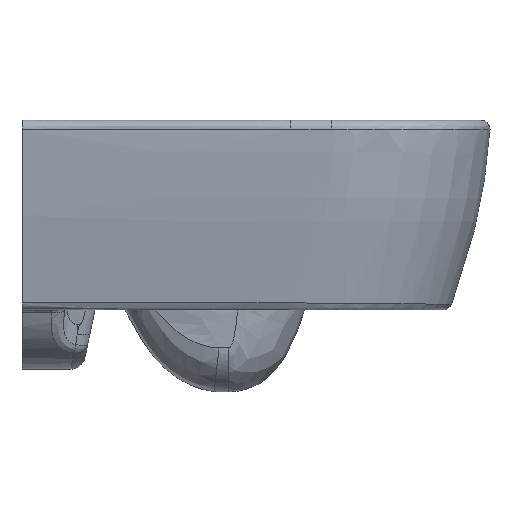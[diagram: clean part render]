
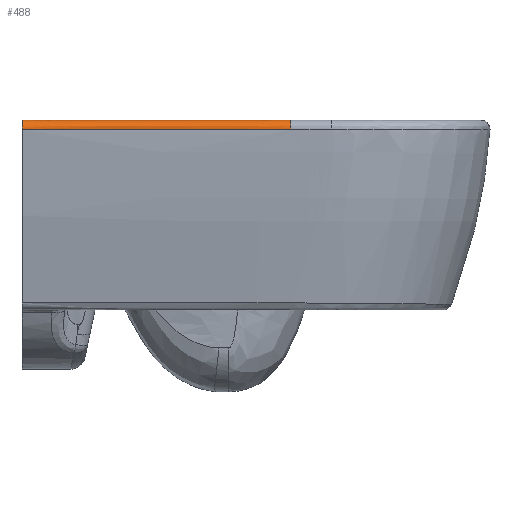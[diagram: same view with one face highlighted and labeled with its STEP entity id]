
A CAD part, left-side view. The second image highlights one B-rep face of the part: STEP entity #488.
In plain terms, the highlighted free-form (B-spline) face has degree [3, 2] with [4, 3] control points.
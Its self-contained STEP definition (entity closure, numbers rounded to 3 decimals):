
#169=(
BOUNDED_CURVE()
B_SPLINE_CURVE(2,(#36468,#36469,#36470),.UNSPECIFIED.,.F.,.F.)
B_SPLINE_CURVE_WITH_KNOTS((3,3),(0.,1.),.UNSPECIFIED.)
CURVE()
GEOMETRIC_REPRESENTATION_ITEM()
RATIONAL_B_SPLINE_CURVE((1.018,0.698,1.))
REPRESENTATION_ITEM('')
);
#244=(
BOUNDED_SURFACE()
B_SPLINE_SURFACE(3,2,((#36492,#36493,#36494),(#36495,#36496,#36497),(#36498,
#36499,#36500),(#36501,#36502,#36503)),.UNSPECIFIED.,.F.,.F.,.F.)
B_SPLINE_SURFACE_WITH_KNOTS((4,4),(3,3),(0.,1.),(0.,1.),.UNSPECIFIED.)
GEOMETRIC_REPRESENTATION_ITEM()
RATIONAL_B_SPLINE_SURFACE(((1.,0.634,1.183),(1.,
0.634,1.183),(1.,0.634,1.183),
(1.,0.634,1.183)))
REPRESENTATION_ITEM('')
SURFACE()
);
#488=ADVANCED_FACE('',(#762),#244,.T.);
#762=FACE_OUTER_BOUND('',#954,.T.);
#954=EDGE_LOOP('',(#1798,#1799,#1800,#1801));
#1798=ORIENTED_EDGE('',*,*,#2549,.T.);
#1799=ORIENTED_EDGE('',*,*,#2656,.F.);
#1800=ORIENTED_EDGE('',*,*,#2655,.T.);
#1801=ORIENTED_EDGE('',*,*,#2657,.T.);
#2127=VERTEX_POINT('',#33306);
#2137=VERTEX_POINT('',#33353);
#2201=VERTEX_POINT('',#36465);
#2202=VERTEX_POINT('',#36467);
#2549=EDGE_CURVE('',#2127,#2137,#2947,.T.);
#2655=EDGE_CURVE('',#2201,#2202,#169,.T.);
#2656=EDGE_CURVE('',#2201,#2137,#3010,.T.);
#2657=EDGE_CURVE('',#2202,#2127,#3011,.T.);
#2947=B_SPLINE_CURVE_WITH_KNOTS('',3,(#33354,#33355,#33356,#33357,#33358,
#33359),.UNSPECIFIED.,.F.,.F.,(4,2,4),(0.,0.5,1.),.UNSPECIFIED.);
#3010=B_SPLINE_CURVE_WITH_KNOTS('',3,(#36479,#36480,#36481,#36482,#36483,
#36484,#36485,#36486,#36487),.UNSPECIFIED.,.F.,.F.,(4,1,1,1,1,1,4),(0.,
0.02,0.085,0.216,0.477,
0.739,1.),.UNSPECIFIED.);
#3011=B_SPLINE_CURVE_WITH_KNOTS('',3,(#36488,#36489,#36490,#36491),
 .UNSPECIFIED.,.F.,.F.,(4,4),(0.,1.),.UNSPECIFIED.);
#33306=CARTESIAN_POINT('',(-171.223,0.,-10.));
#33353=CARTESIAN_POINT('',(-181.217,0.,-20.421));
#33354=CARTESIAN_POINT('',(-171.223,0.,-10.));
#33355=CARTESIAN_POINT('',(-173.936,0.,-10.));
#33356=CARTESIAN_POINT('',(-176.588,0.,-11.146));
#33357=CARTESIAN_POINT('',(-180.294,0.,-15.007));
#33358=CARTESIAN_POINT('',(-181.331,0.,-17.711));
#33359=CARTESIAN_POINT('',(-181.217,0.,-20.421));
#36465=CARTESIAN_POINT('',(-184.991,-304.433,-20.421));
#36467=CARTESIAN_POINT('',(-175.,-304.433,-10.));
#36468=CARTESIAN_POINT('',(-184.991,-304.433,-20.421));
#36469=CARTESIAN_POINT('',(-185.43,-304.433,-10.));
#36470=CARTESIAN_POINT('',(-175.,-304.433,-10.));
#36479=CARTESIAN_POINT('',(-184.991,-304.433,-20.421));
#36480=CARTESIAN_POINT('',(-184.991,-302.401,-20.421));
#36481=CARTESIAN_POINT('',(-184.988,-293.739,-20.421));
#36482=CARTESIAN_POINT('',(-184.954,-271.817,-20.421));
#36483=CARTESIAN_POINT('',(-184.752,-225.404,-20.421));
#36484=CARTESIAN_POINT('',(-184.118,-159.103,-20.421));
#36485=CARTESIAN_POINT('',(-182.887,-79.548,-20.421));
#36486=CARTESIAN_POINT('',(-181.807,-26.515,-20.421));
#36487=CARTESIAN_POINT('',(-181.216,0.,-20.421));
#36488=CARTESIAN_POINT('',(-175.,-304.433,-10.));
#36489=CARTESIAN_POINT('',(-175.,-202.944,-10.));
#36490=CARTESIAN_POINT('',(-173.485,-101.462,-10.));
#36491=CARTESIAN_POINT('',(-171.223,0.,-10.));
#36492=CARTESIAN_POINT('',(-175.,-304.433,-10.));
#36493=CARTESIAN_POINT('',(-188.944,-304.433,-10.));
#36494=CARTESIAN_POINT('',(-184.472,-304.433,-23.207));
#36495=CARTESIAN_POINT('',(-175.,-198.981,-10.));
#36496=CARTESIAN_POINT('',(-188.944,-198.837,-10.));
#36497=CARTESIAN_POINT('',(-184.472,-198.883,-23.207));
#36498=CARTESIAN_POINT('',(-173.364,-93.536,-10.));
#36499=CARTESIAN_POINT('',(-187.306,-93.285,-10.));
#36500=CARTESIAN_POINT('',(-182.835,-93.366,-23.207));
#36501=CARTESIAN_POINT('',(-170.955,11.886,-10.));
#36502=CARTESIAN_POINT('',(-184.895,12.205,-10.));
#36503=CARTESIAN_POINT('',(-180.424,12.103,-23.207));
